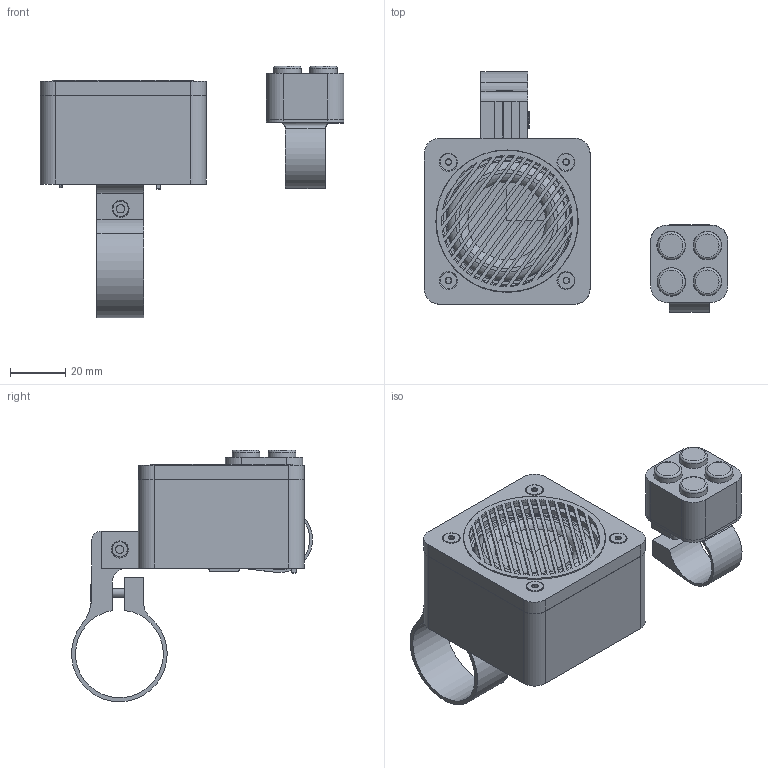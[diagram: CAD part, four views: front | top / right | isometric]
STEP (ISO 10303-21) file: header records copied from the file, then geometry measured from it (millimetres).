
FILE_DESCRIPTION(/* description */ (''),/* implementation_level */ '2;1');
FILE_NAME(/* name */ 'cycle bell v1.step',/* time_stamp */ '2023-12-09T17:02:49+05:30',/* author */ (''),/* organization */ (''),/* preprocessor_version */ 'ST-DEVELOPER v20',/* originating_system */ 'Autodesk Translation Framework v12.14.0.127',/* authorisation */ '');
FILE_SCHEMA (('AUTOMOTIVE_DESIGN { 1 0 10303 214 3 1 1 }'));
Products named in the file (85): cycle bell; 4 Ohm 3 W Speaker v1; Component2; Component3; Component4; Component5; Component6; Component7; Component8; Component9; Component10; Component11; Component12; Component13; Component14; Seeed Studio XIAO-ESP32-S3-Sense v1; Seeed Studio XIAO-ESP32-S3 (Sense); USB TYPE C PORT; USB TYPE C PORT (1); BOSS-EXTRUDE14_8_; BOSS-EXTRUDE7_4_; BOSS-EXTRUDE7_3_; BOSS-EXTRUDE14_4_; BOSS-EXTRUDE14_2_; BOSS-EXTRUDE14_11_; BOSS-EXTRUDE7_7_; BOSS-EXTRUDE14_9_; BOSS-EXTRUDE14_3_; BOSS-EXTRUDE14_7_; MIRROR2; BOSS-EXTRUDE14_5_; BOSS-EXTRUDE14_12_; BOSS-EXTRUDE7_8_; BOSS-EXTRUDE7_1_; BOSS-EXTRUDE14_10_; BOSS-EXTRUDE7_9_; BOSS-EXTRUDE14_6_; CHAMFER9; BOSS-EXTRUDE14_1_; BOSS-EXTRUDE7_6_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
Assembly tree (98 placements, depth 6):
  cycle bell
    4 Ohm 3 W Speaker v1
      Component2
      Component3
      Component4
      Component5
      Component6
      Component7
      Component8
      Component9
      Component10
      Component11
      Component12
      Component13
      Component14
    Seeed Studio XIAO-ESP32-S3-Sense v1
      Seeed Studio XIAO-ESP32-S3 (Sense)
        USB TYPE C PORT
          USB TYPE C PORT (1)
            BOSS-EXTRUDE14_8_
            BOSS-EXTRUDE7_4_
            BOSS-EXTRUDE7_3_
            BOSS-EXTRUDE14_4_
            BOSS-EXTRUDE14_2_
            BOSS-EXTRUDE14_11_
            BOSS-EXTRUDE7_7_
            BOSS-EXTRUDE14_9_
            BOSS-EXTRUDE14_3_
            BOSS-EXTRUDE14_7_
            MIRROR2
            BOSS-EXTRUDE14_5_
            BOSS-EXTRUDE14_12_
            BOSS-EXTRUDE7_8_
            BOSS-EXTRUDE7_1_
            BOSS-EXTRUDE14_10_
            BOSS-EXTRUDE7_9_
            BOSS-EXTRUDE14_6_
            CHAMFER9
            BOSS-EXTRUDE14_1_
            BOSS-EXTRUDE7_6_
            BOSS-EXTRUDE7_2_
            CUT-EXTRUDE5
            BOSS-EXTRUDE7_5_
        Shield
        SKTAAAE010 v1
          Body
          Pins
        SKTAAAE010 v1_1
          Body
          Pins
    DFPlayer Mini Assem v1 v1
      DFPlayer Mini PCB
      SD card Assem
        CD card slot
        Micro sd card
    TP4056 charge module with protection v1
      USB_type_C
    MAIN BODY
    M3 CSK  x4
    FRONT COVER
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Bounding box: 109.82 x 87.11 x 90.89 mm (x, y, z)
Volume: 85541.2 mm3; surface area: 92018.1 mm2
Topology: 154 solids, 159 shells, 5475 faces, 14102 edges, 9164 vertices
Faces by surface type: plane 3703, cylinder 979, bspline 525, cone 142, torus 96, sphere 30
Full cylindrical faces by diameter (mm): 0.5 x2, 0.6 x5, 0.65 x2, 0.75 x14, 0.8 x2, 1 x32, 1.5 x10, 1.524 x8, 2 x10, 2.2 x1, 3 x22, 3.2 x7, 3.3 x2, 3.5 x8, 4 x1, 6 x9, 6.1 x1, 6.2 x1, 6.3 x1, 6.478 x4, 7 x4, 7.75 x1, 9.519 x1, 10 x4, 10.3 x4, 11 x4, 32 x2, 40 x1, 47.022 x1, 49.292 x1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
Entity records: 191346 total; most frequent: CARTESIAN_POINT 61704, ORIENTED_EDGE 27184, DIRECTION 24537, EDGE_CURVE 13592, LINE 10247, VECTOR 10247, VERTEX_POINT 8886, AXIS2_PLACEMENT_3D 7145
